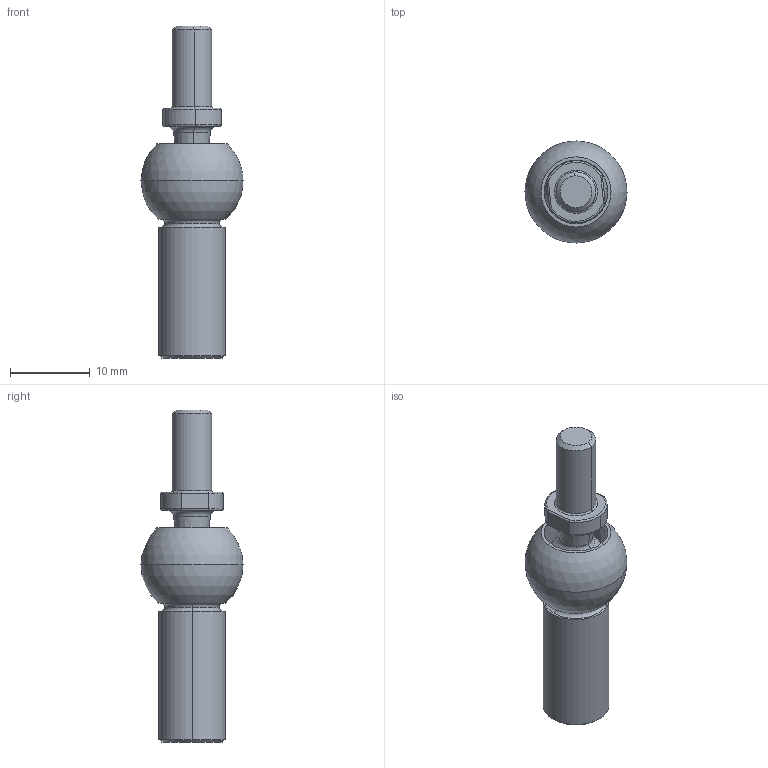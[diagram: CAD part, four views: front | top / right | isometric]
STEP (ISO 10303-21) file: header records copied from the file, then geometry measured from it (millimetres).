
FILE_DESCRIPTION (( 'STEP AP203' ), '1' );
FILE_NAME ('SND011x.STEP', '2018-12-17T13:15:25', ( '' ), ( '' ), 'SwSTEP 2.0', 'SolidWorks 2019', '' );
FILE_SCHEMA (( 'CONFIG_CONTROL_DESIGN' ));
Length unit declared in the file: millimetre
Products named in the file (3): SND011-A; SND011x; SND011-B
Assembly tree (2 placements, depth 2):
  SND011x
    SND011-B
    SND011-A
Bounding box: 12.8 x 12.8 x 41.63 mm (x, y, z)
Volume: 1889.8 mm3; surface area: 1890.3 mm2
Topology: 2 solids, 2 shells, 61 faces, 138 edges, 83 vertices
Faces by surface type: torus 20, cylinder 13, cone 12, plane 11, sphere 5
Entity records: 1972 total; most frequent: DIRECTION 337, CARTESIAN_POINT 310, ORIENTED_EDGE 252, AXIS2_PLACEMENT_3D 153, EDGE_CURVE 126, CIRCLE 87, VERTEX_POINT 78, EDGE_LOOP 70
